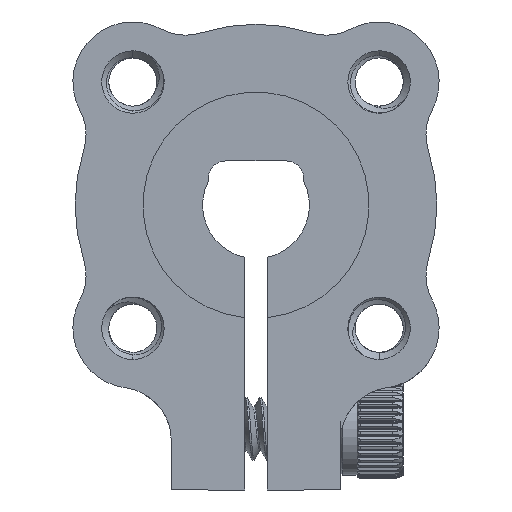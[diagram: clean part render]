
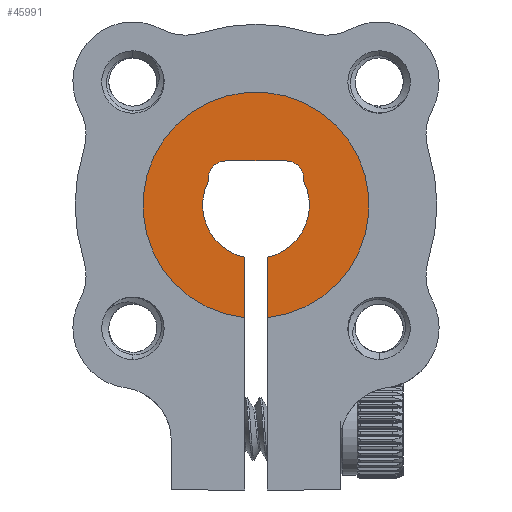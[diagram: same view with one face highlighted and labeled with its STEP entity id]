
A CAD part, front view. The second image highlights one B-rep face of the part: STEP entity #45991.
In plain terms, the highlighted planar face has unit normal (0, -1, 0).
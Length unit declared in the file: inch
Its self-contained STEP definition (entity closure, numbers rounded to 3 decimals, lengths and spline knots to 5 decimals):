
#24 = EDGE_CURVE ( 'NONE', #48592, #2495, #37978, .T. ) ;
#120 = VERTEX_POINT ( 'NONE', #35400 ) ;
#476 = CARTESIAN_POINT ( 'NONE',  ( 0., 0., 0. ) ) ;
#972 = CIRCLE ( 'NONE', #48099, 0.11811 ) ;
#1277 = CARTESIAN_POINT ( 'NONE',  ( 0.025, 0., -0.24875 ) ) ;
#1365 = DIRECTION ( 'NONE',  ( 0., 1., 0. ) ) ;
#2495 = VERTEX_POINT ( 'NONE', #38798 ) ;
#4788 = DIRECTION ( 'NONE',  ( 0., -1., 0. ) ) ;
#5321 = EDGE_CURVE ( 'NONE', #120, #2495, #972, .T. ) ;
#5914 = DIRECTION ( 'NONE',  ( 0., 0., 1. ) ) ;
#6429 = CARTESIAN_POINT ( 'NONE',  ( 0.10549, 0., 0.05312 ) ) ;
#6646 = EDGE_CURVE ( 'NONE', #48592, #12793, #50548, .T. ) ;
#7539 = CARTESIAN_POINT ( 'NONE',  ( 0., 0., 0.09764 ) ) ;
#7965 = CARTESIAN_POINT ( 'NONE',  ( -0.06646, 0., 0.05827 ) ) ;
#8640 = DIRECTION ( 'NONE',  ( 0., 1., 0. ) ) ;
#8874 = DIRECTION ( 'NONE',  ( 0., -1., 0. ) ) ;
#9165 = VERTEX_POINT ( 'NONE', #6429 ) ;
#9891 = DIRECTION ( 'NONE',  ( 0., 0., 1. ) ) ;
#12793 = VERTEX_POINT ( 'NONE', #1277 ) ;
#12924 = DIRECTION ( 'NONE',  ( 0., 0., -1. ) ) ;
#13769 = PLANE ( 'NONE',  #24313 ) ;
#13842 = AXIS2_PLACEMENT_3D ( 'NONE', #46682, #4788, #16607 ) ;
#15229 = AXIS2_PLACEMENT_3D ( 'NONE', #43540, #52310, #5914 ) ;
#15636 = DIRECTION ( 'NONE',  ( 0., 0., -1. ) ) ;
#16196 = ORIENTED_EDGE ( 'NONE', *, *, #5321, .F. ) ;
#16607 = DIRECTION ( 'NONE',  ( 0., 0., -1. ) ) ;
#16840 = CARTESIAN_POINT ( 'NONE',  ( 0.025, 0., -0.11543 ) ) ;
#16856 = VERTEX_POINT ( 'NONE', #37359 ) ;
#17713 = AXIS2_PLACEMENT_3D ( 'NONE', #476, #8640, #25094 ) ;
#18794 = CIRCLE ( 'NONE', #33995, 0.03937 ) ;
#19010 = CARTESIAN_POINT ( 'NONE',  ( -0.025, 0., -0.24875 ) ) ;
#19250 = ORIENTED_EDGE ( 'NONE', *, *, #21009, .F. ) ;
#19263 = ORIENTED_EDGE ( 'NONE', *, *, #6646, .F. ) ;
#19716 = EDGE_CURVE ( 'NONE', #35213, #12793, #30437, .T. ) ;
#19832 = ORIENTED_EDGE ( 'NONE', *, *, #40015, .F. ) ;
#21009 = EDGE_CURVE ( 'NONE', #9165, #16856, #49544, .T. ) ;
#23183 = ORIENTED_EDGE ( 'NONE', *, *, #32783, .T. ) ;
#23608 = DIRECTION ( 'NONE',  ( 1., 0., 0. ) ) ;
#24313 = AXIS2_PLACEMENT_3D ( 'NONE', #43278, #1365, #9891 ) ;
#25094 = DIRECTION ( 'NONE',  ( 0., 0., 1. ) ) ;
#26525 = DIRECTION ( 'NONE',  ( 0., -1., 0. ) ) ;
#28162 = EDGE_LOOP ( 'NONE', ( #23183, #19250, #40505, #35783, #19263, #37261, #16196, #19832 ) ) ;
#28313 = EDGE_CURVE ( 'NONE', #35213, #9165, #35992, .T. ) ;
#29768 = CARTESIAN_POINT ( 'NONE',  ( -0.025, 0., -0.39922 ) ) ;
#29923 = LINE ( 'NONE', #7539, #31193 ) ;
#30437 = LINE ( 'NONE', #32028, #51017 ) ;
#31193 = VECTOR ( 'NONE', #23608, 39.37008 ) ;
#31668 = VERTEX_POINT ( 'NONE', #38462 ) ;
#32028 = CARTESIAN_POINT ( 'NONE',  ( 0.025, 0., -0.39922 ) ) ;
#32716 = VECTOR ( 'NONE', #38911, 39.37008 ) ;
#32783 = EDGE_CURVE ( 'NONE', #31668, #16856, #29923, .T. ) ;
#33995 = AXIS2_PLACEMENT_3D ( 'NONE', #7965, #8874, #12924 ) ;
#34618 = CARTESIAN_POINT ( 'NONE',  ( 0., 0., 0. ) ) ;
#35213 = VERTEX_POINT ( 'NONE', #16840 ) ;
#35400 = CARTESIAN_POINT ( 'NONE',  ( -0.10549, 0., 0.05312 ) ) ;
#35783 = ORIENTED_EDGE ( 'NONE', *, *, #19716, .T. ) ;
#35992 = CIRCLE ( 'NONE', #13842, 0.11811 ) ;
#37261 = ORIENTED_EDGE ( 'NONE', *, *, #24, .T. ) ;
#37359 = CARTESIAN_POINT ( 'NONE',  ( 0.06646, 0., 0.09764 ) ) ;
#37978 = LINE ( 'NONE', #29768, #32716 ) ;
#38462 = CARTESIAN_POINT ( 'NONE',  ( -0.06646, 0., 0.09764 ) ) ;
#38798 = CARTESIAN_POINT ( 'NONE',  ( -0.025, 0., -0.11543 ) ) ;
#38911 = DIRECTION ( 'NONE',  ( 0., 0., 1. ) ) ;
#40015 = EDGE_CURVE ( 'NONE', #31668, #120, #18794, .T. ) ;
#40505 = ORIENTED_EDGE ( 'NONE', *, *, #28313, .F. ) ;
#43278 = CARTESIAN_POINT ( 'NONE',  ( 0., 0., 0. ) ) ;
#43540 = CARTESIAN_POINT ( 'NONE',  ( 0.06646, 0., 0.05827 ) ) ;
#43911 = FACE_OUTER_BOUND ( 'NONE', #28162, .T. ) ;
#45991 = ADVANCED_FACE ( 'NONE', ( #43911 ), #13769, .F. ) ;
#46682 = CARTESIAN_POINT ( 'NONE',  ( 0., 0., 0. ) ) ;
#47928 = DIRECTION ( 'NONE',  ( 0., 0., -1. ) ) ;
#48099 = AXIS2_PLACEMENT_3D ( 'NONE', #34618, #26525, #47928 ) ;
#48592 = VERTEX_POINT ( 'NONE', #19010 ) ;
#49544 = CIRCLE ( 'NONE', #15229, 0.03937 ) ;
#50548 = CIRCLE ( 'NONE', #17713, 0.25 ) ;
#51017 = VECTOR ( 'NONE', #15636, 39.37008 ) ;
#52310 = DIRECTION ( 'NONE',  ( 0., -1., 0. ) ) ;
